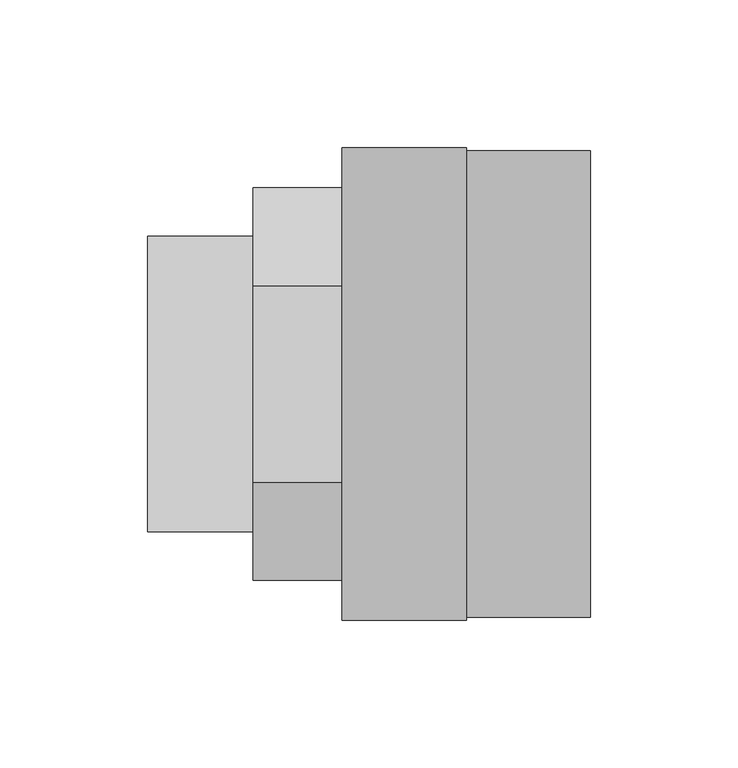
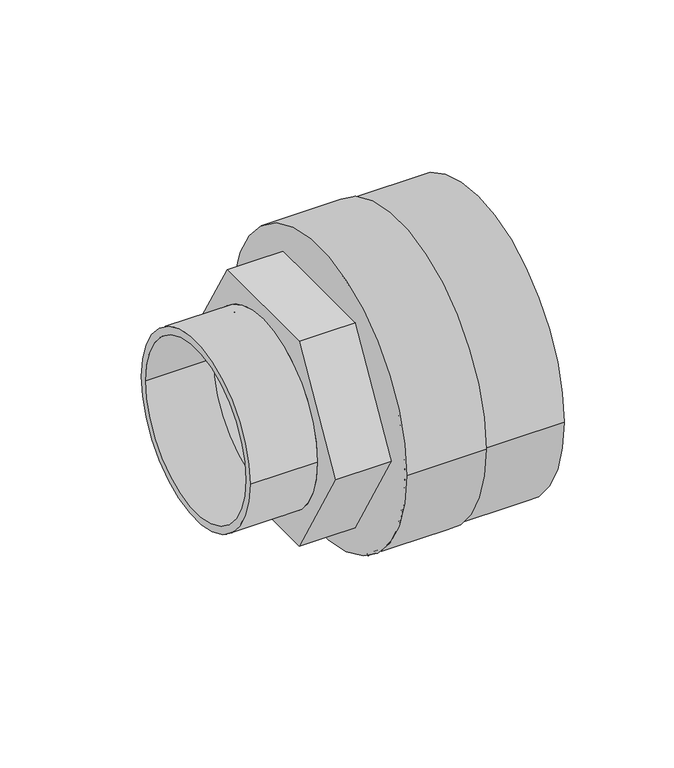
"""IFC4 building model written with IfcOpenShell, lengths in millimetres: pipe fitting geometry, NIRON RED termofusion roscado enlace rosca macho hexagonal : Estándar."""

from ifc_helpers import new_model, si_unit, point, frame, origin, origin_2d, place, context, project, spatial, polyline, circle_curve, trimmed, segment, composite_curve, outline, extrude, source, transform, mapped, element, save
from ifc_brep_helpers import plane_surface, revolved_surface, advanced_brep


def pipe_fitting_7058f713(model_context):
    return source(origin(), model_context, "Body", "SolidModel", [
        extrude(outline(composite_curve([segment(trimmed(circle_curve(origin_2d(), 50.0), [point((-50.0, 0.0))], [point((50.0, 0.0))], False, "CARTESIAN"), True, "CONTINUOUS"), segment(trimmed(circle_curve(origin_2d(), 50.0), [point((50.0, 0.0))], [point((-50.0, 0.0))], False, "CARTESIAN"), True, "CONTINUOUS")], self_intersect=False), holes=[composite_curve([segment(trimmed(circle_curve(origin_2d(), 46.0), [point((-46.0, 0.0))], [point((46.0, 0.0))], True, "CARTESIAN"), True, "CONTINUOUS"), segment(trimmed(circle_curve(origin_2d(), 46.0), [point((46.0, 0.0))], [point((-46.0, 0.0))], True, "CARTESIAN"), True, "CONTINUOUS")], self_intersect=False)]), frame((-35.8, 0.0, 0.0), z_axis=(1.0, 0.0, 0.0), x_axis=(0.0, 1.0, 0.0)), (0.0, 0.0, 1.0), 35.8),
        extrude(outline(composite_curve([segment(trimmed(circle_curve(origin_2d(), 80.0), [point((80.0, 0.0))], [point((-80.0, 0.0))], False, "CARTESIAN"), True, "CONTINUOUS"), segment(trimmed(circle_curve(origin_2d(), 80.0), [point((-80.0, 0.0))], [point((80.0, 0.0))], False, "CARTESIAN"), True, "CONTINUOUS")], self_intersect=False)), frame((30.0, 0.0, 0.0), z_axis=(1.0, 0.0, 0.0), x_axis=(0.0, 1.0, 0.0)), (0.0, 0.0, 1.0), 42.2),
        extrude(outline(composite_curve([segment(trimmed(circle_curve(origin_2d(), 79.0), [point((79.0, 0.0))], [point((-79.0, 0.0))], False, "CARTESIAN"), True, "CONTINUOUS"), segment(trimmed(circle_curve(origin_2d(), 79.0), [point((-79.0, 0.0))], [point((79.0, 0.0))], False, "CARTESIAN"), True, "CONTINUOUS")], self_intersect=False)), frame((30.0, 0.0, 0.0), z_axis=(1.0, 0.0, 0.0), x_axis=(0.0, 1.0, 0.0)), (0.0, 0.0, 1.0), 84.2),
        advanced_brep(
        [(45.0, -33.1976405, -57.5), (45.0, 33.1976405, -57.5), (45.0, 66.395281, 0.0), (45.0, 33.1976405, 57.5), (45.0, -33.1976405, 57.5), (45.0, -66.395281, 0.0), (0.0, -33.1976405, -57.5), (0.0, -66.395281, 0.0), (0.0, -33.1976405, 57.5), (0.0, 33.1976405, 57.5), (0.0, 66.395281, 0.0), (0.0, 33.1976405, -57.5), (0.0, -50.0, 0.0), (0.0, 50.0, 0.0), (23.7, 50.0, 0.0), (23.7, -50.0, 0.0)],
        [
            (0, 1),
            (1, 2),
            (2, 3),
            (3, 4),
            (4, 5),
            (5, 0),
            (6, 7),
            (7, 8),
            (8, 9),
            (9, 10),
            (10, 11),
            (11, 6),
            (12, 13, circle_curve(frame((0.0, 0.0, 0.0), z_axis=(1.0, 0.0, 0.0), x_axis=(0.0, -1.0, 0.0)), 50.0)),
            (13, 12, circle_curve(frame((0.0, 0.0, 0.0), z_axis=(1.0, 0.0, 0.0), x_axis=(0.0, -1.0, 0.0)), 50.0)),
            (0, 6),
            (11, 1),
            (10, 2),
            (9, 3),
            (8, 4),
            (7, 5),
            (14, 15, circle_curve(frame((23.7, 0.0, 0.0), z_axis=(-1.0, 0.0, 0.0), x_axis=(0.0, -1.0, 0.0)), 50.0)),
            (15, 14, circle_curve(frame((23.7, 0.0, 0.0), z_axis=(-1.0, 0.0, 0.0), x_axis=(0.0, -1.0, 0.0)), 50.0)),
            (14, 13),
            (12, 15),
        ],
        [
            plane_surface(frame((45.0, 0.0, 0.0), z_axis=(1.0, 0.0, 0.0), x_axis=(0.0, 0.0, 1.0))),
            plane_surface(frame((0.0, 0.0, 0.0), z_axis=(-1.0, 0.0, 0.0), x_axis=(0.0, 0.0, 1.0))),
            plane_surface(frame((45.0, -33.1976405, -57.5), z_axis=(0.0, 0.0, -1.0), x_axis=(-1.0, 0.0, 0.0))),
            plane_surface(frame((45.0, 33.1976405, -57.5), z_axis=(0.0, 0.8660254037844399, -0.4999999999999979), x_axis=(-1.0, 0.0, 0.0))),
            plane_surface(frame((45.0, 66.395281, 0.0), z_axis=(0.0, 0.866025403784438, 0.500000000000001), x_axis=(-1.0, 0.0, 0.0))),
            plane_surface(frame((45.0, 33.1976405, 57.5), z_axis=(0.0, 0.0, 1.0), x_axis=(-1.0, 0.0, 0.0))),
            plane_surface(frame((45.0, -33.1976405, 57.5), z_axis=(0.0, -0.8660254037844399, 0.4999999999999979), x_axis=(-1.0, 0.0, 0.0))),
            plane_surface(frame((45.0, -66.395281, 0.0), z_axis=(0.0, -0.8660254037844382, -0.500000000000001), x_axis=(-1.0, 0.0, 0.0))),
            plane_surface(frame((23.7, -50.0, 0.0), z_axis=(-1.0, 0.0, 0.0), x_axis=(0.0, 0.0, -1.0))),
            revolved_surface(polyline([(0.0, -50.0, 0.0), (23.7, -50.0, 0.0)]), (23.7, 0.0, 0.0), (-1.0, 0.0, 0.0)),
        ],
        [
            (0, [[1, 2, 3, 4, 5, 6]]),
            (1, [[7, 8, 9, 10, 11, 12], [13, 14]]),
            (2, [[-1, 15, -12, 16]]),
            (3, [[-2, -16, -11, 17]]),
            (4, [[-3, -17, -10, 18]]),
            (5, [[-4, -18, -9, 19]]),
            (6, [[-5, -19, -8, 20]]),
            (7, [[-6, -20, -7, -15]]),
            (8, [[21, 22]]),
            (9, [[-21, 23, -13, 24]]),
            (9, [[-22, -24, -14, -23]]),
        ],
    ),
    ])


if __name__ == "__main__":
    model = new_model("IFC4")
    model_context = context("Model", 3, world=origin())
    ifc_project = project(units=[si_unit("LENGTHUNIT", "METRE", prefix="MILLI")], contexts=[model_context])
    site = spatial("IfcSite", under=ifc_project)
    building = spatial("IfcBuilding", under=site)
    placement = place(None, origin())
    pipe_fitting_shape = pipe_fitting_7058f713(model_context)
    element("IfcPipeFitting", 1, ObjectType="NIRON RED termofusion roscado enlace rosca macho hexagonal : Estándar", at=placement, inside=building, context=model_context, shape_type="MappedRepresentation", body=[
        mapped(pipe_fitting_shape, transform((0.0, 0.0, 0.0), x_axis=(1.0, 0.0, 0.0), y_axis=(0.0, 1.0, 0.0), z_axis=(0.0, 0.0, 1.0))),
    ])
    save(model, "model.ifc")
